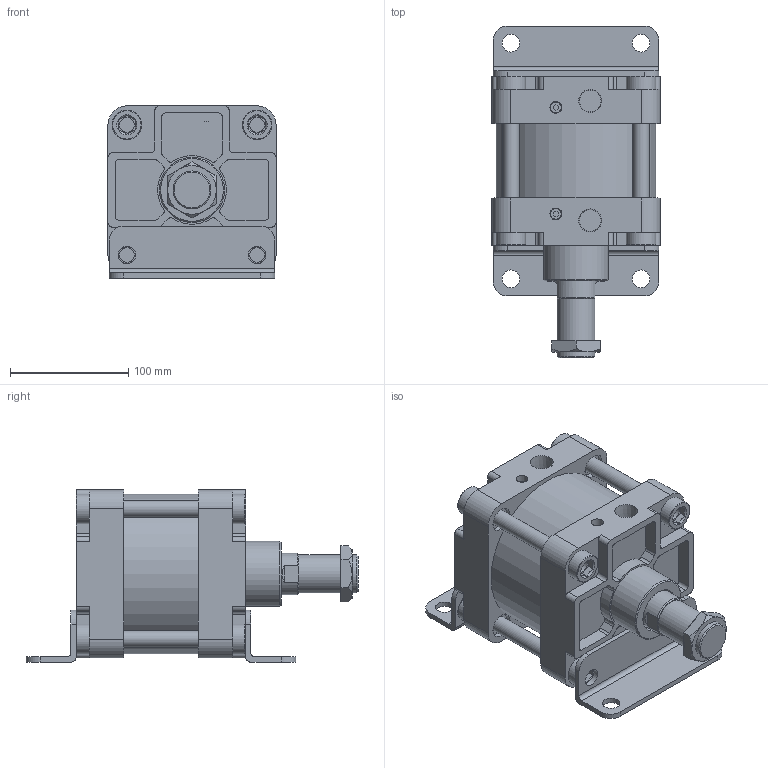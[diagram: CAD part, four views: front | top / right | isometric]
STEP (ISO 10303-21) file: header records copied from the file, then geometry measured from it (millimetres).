
FILE_DESCRIPTION(/* description */ ('Unknown'),/* implementation_level */ '2;1');
FILE_NAME(/* name */ 'WA125-0-LB',/* time_stamp */ '2026-07-17T16:59:16+08:00',/* author */ ('Unknown'),/* organization */ ('Unknown'),/* preprocessor_version */ 'ST-DEVELOPER v16.7',/* originating_system */ 'DEX',/* authorisation */ $);
FILE_SCHEMA (('CONFIG_CONTROL_DESIGN'));
Length unit declared in the file: millimetre
Products named in the file (8): WA125-0-LB; WA125_前3; WA125_岃搵; WA125_ｾT∫ｮ｡; M32-2.0P-10_螺; WA125_心軸活onRefs; WA125_LB; WA125_T碪墮姊濈祫
Assembly tree (11 placements, depth 2):
  WA125-0-LB
    WA125_前3
    WA125_岃搵
    WA125_ｾT∫ｮ｡
    M32-2.0P-10_螺
    WA125_心軸活onRefs
    WA125_LB  x2
    WA125_T碪墮姊濈祫  x4
Bounding box: 142 x 280.5 x 145.5 mm (x, y, z)
Volume: 2453008.6 mm3; surface area: 378309.6 mm2
Topology: 11 solids, 11 shells, 426 faces, 1054 edges, 702 vertices
Faces by surface type: plane 236, cylinder 159, cone 23, torus 8
Full cylindrical faces by diameter (mm): 9 x2, 10 x2, 12.5 x8, 14 x4, 15 x8, 20 x8, 20.5 x8, 25 x8, 30 x1, 32 x1, 35 x1, 36 x1, 41 x1, 55 x1, 124.5 x1, 125 x3, 135 x1
Entity records: 11316 total; most frequent: CARTESIAN_POINT 1695, DIRECTION 1630, ORIENTED_EDGE 1460, EDGE_CURVE 730, AXIS2_PLACEMENT_3D 607, VERTEX_POINT 508, LINE 416, VECTOR 416
